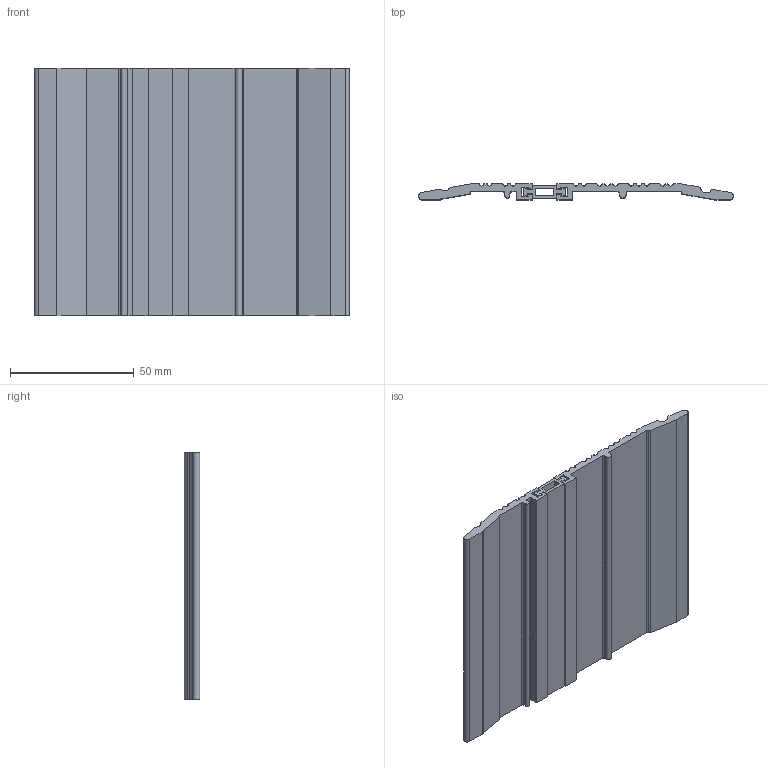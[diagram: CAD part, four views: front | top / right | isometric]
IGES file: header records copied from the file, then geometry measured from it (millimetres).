
Global section: file name: No Iges File Name specified; native system: Autodesk Inventor 2012; preprocessor: AutoDesk Inventor Iges Exporter R2012; author: anna.b; date: 20170316.140932; units: millimetre
Bounding box: 127 x 6.35 x 100 mm (x, y, z)
Volume: 43256.5 mm3; surface area: 38162.1 mm2
Topology: 3 solids, 3 shells, 136 faces, 390 edges, 260 vertices
Faces by surface type: plane 87, cylinder 28, revolution 21
